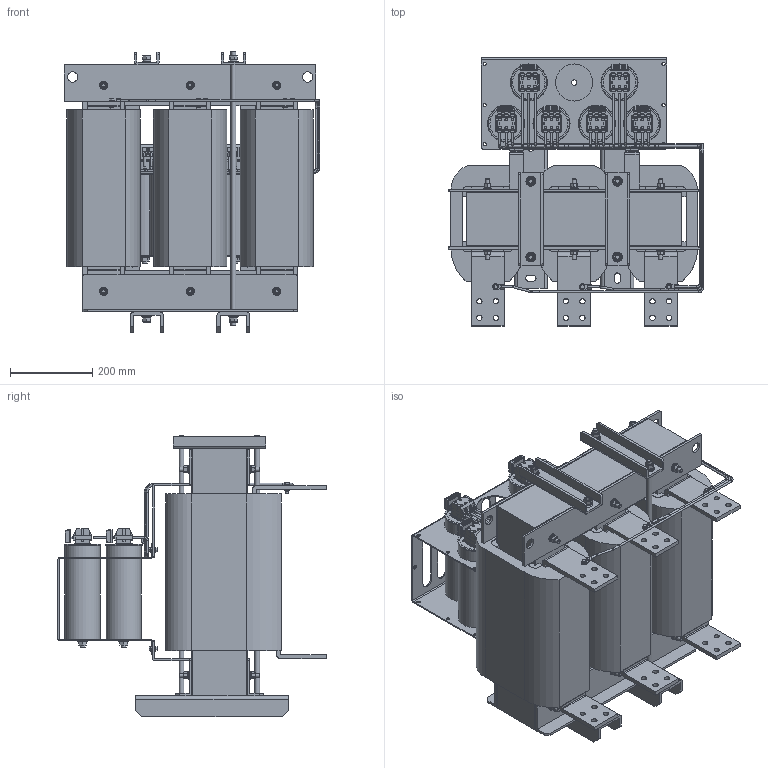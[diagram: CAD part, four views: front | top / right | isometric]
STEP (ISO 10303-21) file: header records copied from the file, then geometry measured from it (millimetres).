
FILE_DESCRIPTION (( 'STEP AP203' ), '1' );
FILE_NAME ('蔓躅漤铋 耔眢耥 翳朦蝠 _ ISINOF-500_930-4.STEP', '2026-07-21T08:12:33', ( '' ), ( '' ), 'SwSTEP 2.0', 'SolidWorks 2021', '' );
FILE_SCHEMA (( 'CONFIG_CONTROL_DESIGN' ));
Length unit declared in the file: millimetre
Products named in the file (1): 蔓躅漤铋 耔眢耥 翳朦蝠 _ ISINOF-500_930-4
Bounding box: 618.9 x 651.01 x 682 mm (x, y, z)
Surface area: 6334449.2 mm2 (no closed solid volume)
Topology: 0 solids, 208 shells, 3684 faces, 9745 edges, 6469 vertices
Faces by surface type: plane 2391, cylinder 1045, cone 138, bspline 61, torus 49
Full cylindrical faces by diameter (mm): 5 x72, 5.053 x3, 6 x7, 6.3 x72, 6.45 x3, 6.5 x6, 7 x3, 7.47 x3, 8 x12, 8.422 x12, 9.55 x3, 10 x8, 10.106 x8, 10.75 x12, 10.833 x12, 12 x24, 12.9 x8, 13 x37, 15.917 x12, 19.1 x8, 20 x12, 24 x12, 25 x4, 78.861 x6, 86 x6, 89 x6, 90 x7
Entity records: 120505 total; most frequent: CARTESIAN_POINT 32324, ORIENTED_EDGE 18088, DIRECTION 17142, EDGE_CURVE 9056, VERTEX_POINT 6298, VECTOR 6170, LINE 6170, AXIS2_PLACEMENT_3D 5486
